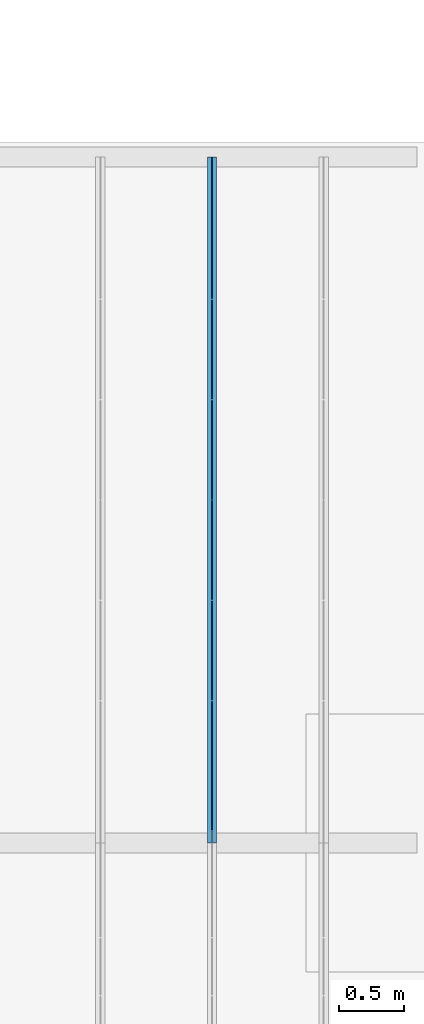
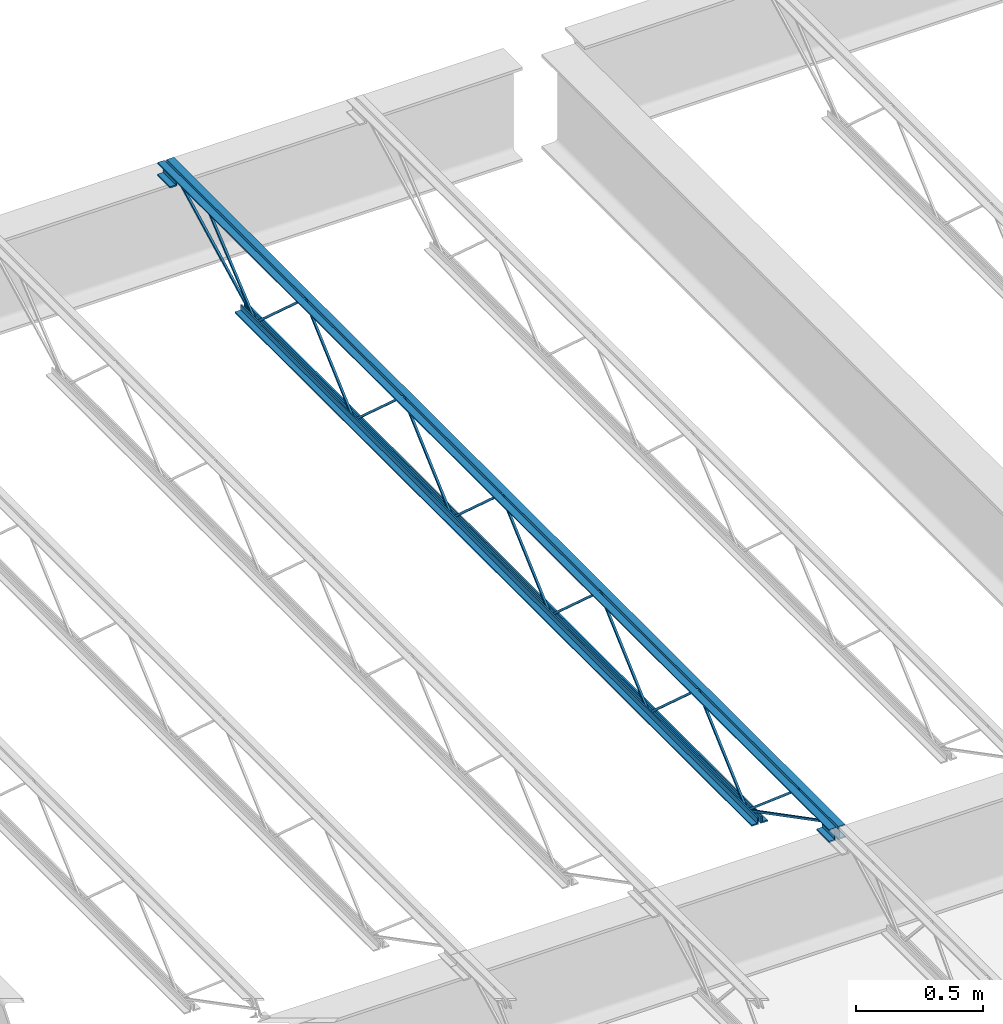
# One storey, part 63 of 75: 1 beam.
"""IFC2X3 building model written with IfcOpenShell, lengths in metres."""

from ifc_helpers import new_model, entity, si_unit, converted_unit, frame, origin, place, context, project, spatial, face_set, surface_model, element, save


model = new_model("IFC2X3")

# Units and contexts
model_context = context("Model", 3, precision=1e-09, world=origin())
plan_context = context("Plan", 3, precision=1e-09, world=origin())
ifc_project = project(units=[si_unit("LENGTHUNIT", "METRE"), si_unit("AREAUNIT", "SQUARE_METRE"), si_unit("VOLUMEUNIT", "CUBIC_METRE"), converted_unit("PLANEANGLEUNIT", "DEGREE", entity("IfcRatioMeasure", 0.01745329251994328), si_unit("PLANEANGLEUNIT", "RADIAN"), dimensions=[0, 0, 0, 0, 0, 0, 0]), si_unit("TIMEUNIT", "SECOND")], contexts=[model_context, plan_context])

# Site, building, storey
site_placement = place(None, origin())
site = spatial("IfcSite", under=ifc_project, at=site_placement, Name="Default", CompositionType="ELEMENT")
building_placement = place(site_placement, origin())
building = spatial("IfcBuilding", under=site, at=building_placement, CompositionType="ELEMENT")
storey_placement = place(building_placement, origin())
storey = spatial("IfcBuildingStorey", under=building, at=storey_placement, Name="First Floor", CompositionType="ELEMENT", Elevation=-3.531500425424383e-13)

# Beam
beam_placement = place(storey_placement, frame((-16.64339999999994, 44.78049999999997, 4.112000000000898), z_axis=(0.0, 0.0, 1.0), x_axis=(-1.0, 0.0, 0.0)))
element("IfcBeam", 1, at=beam_placement, inside=storey, Name="M_K-Series Bar Joist-Rod Web:14K1:14K1", ObjectType="M_K-Series Bar Joist-Rod Web:14K1", context=model_context, shape_type="SurfaceModel", body=[
    surface_model("IfcFaceBasedSurfaceModel", [(-0.0320000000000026, -2.266000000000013, 0.01110000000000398), (-0.04150000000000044, -2.266000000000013, 0.01110000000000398), (-0.04150000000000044, -2.266000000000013, 0.001600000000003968), (-0.0320000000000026, -2.266000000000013, 0.001600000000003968), (-0.04150000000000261, -2.264645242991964, 0.01110000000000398), (-0.0320000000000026, -2.264645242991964, 0.01110000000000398), (-0.04150000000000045, -2.26100475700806, 0.001600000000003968), (-0.04149999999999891, -1.878854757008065, 0.3449000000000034), (-0.04149999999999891, -1.876145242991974, 0.3449000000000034), (-0.04149999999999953, -1.493995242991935, 0.001600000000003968), (-0.04149999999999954, -1.489000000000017, 0.001600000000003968), (-0.04149999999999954, -1.489000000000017, 0.01110000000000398), (-0.04149999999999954, -1.490354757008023, 0.01110000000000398), (-0.04150000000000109, -1.872504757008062, 0.3544000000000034), (-0.04150000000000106, -1.882495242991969, 0.3544000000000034), (-0.03200000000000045, -2.26100475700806, 0.001600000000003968), (-0.03200000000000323, -1.878854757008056, 0.3449000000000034), (-0.03200000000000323, -1.876145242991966, 0.3449000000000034), (-0.0320000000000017, -1.493995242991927, 0.001600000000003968), (-0.03200000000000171, -1.489000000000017, 0.001600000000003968), (-0.03200000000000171, -1.489000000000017, 0.01110000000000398), (-0.0320000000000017, -1.490354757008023, 0.01110000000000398), (-0.03200000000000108, -1.872504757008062, 0.3544000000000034), (-0.03200000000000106, -1.882495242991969, 0.3544000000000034), (-0.03200000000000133, -3.04300000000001, 0.01110000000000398), (-0.04149999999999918, -3.04300000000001, 0.01110000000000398), (-0.04149999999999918, -3.04300000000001, 0.001600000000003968), (-0.03200000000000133, -3.04300000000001, 0.001600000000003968), (-0.04150000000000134, -3.041645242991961, 0.01110000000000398), (-0.03200000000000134, -3.041645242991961, 0.01110000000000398), (-0.04149999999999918, -3.038004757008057, 0.001600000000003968), (-0.0414999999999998, -2.655854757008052, 0.3449000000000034), (-0.04149999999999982, -2.653145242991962, 0.3449000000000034), (-0.04150000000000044, -2.270995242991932, 0.001600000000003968), (-0.04149999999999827, -2.266000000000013, 0.01110000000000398), (-0.04149999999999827, -2.26735475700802, 0.01110000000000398), (-0.04149999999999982, -2.649504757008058, 0.3544000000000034), (-0.0414999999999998, -2.659495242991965, 0.3544000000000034), (-0.03199999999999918, -3.038004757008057, 0.001600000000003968), (-0.03200000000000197, -2.655854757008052, 0.3449000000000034), (-0.03200000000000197, -2.653145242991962, 0.3449000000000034), (-0.03200000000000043, -2.270995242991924, 0.001600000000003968), (-0.03200000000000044, -2.266000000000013, 0.001600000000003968), (-0.0320000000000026, -2.26735475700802, 0.01110000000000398), (-0.03200000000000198, -2.649504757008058, 0.3544000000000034), (-0.03200000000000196, -2.659495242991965, 0.3544000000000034), (-0.03200000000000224, -3.820000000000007, 0.01110000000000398), (-0.04150000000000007, -3.820000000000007, 0.01110000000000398), (-0.04150000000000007, -3.820000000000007, 0.001600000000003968), (-0.03200000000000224, -3.820000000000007, 0.001600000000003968), (-0.04150000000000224, -3.818645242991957, 0.01110000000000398), (-0.03200000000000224, -3.818645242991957, 0.01110000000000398), (-0.04150000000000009, -3.815004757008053, 0.001600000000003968), (-0.0415000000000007, -3.432854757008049, 0.3449000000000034), (-0.04150000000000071, -3.430145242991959, 0.3449000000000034), (-0.04149999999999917, -3.04799524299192, 0.001600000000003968), (-0.04149999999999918, -3.043000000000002, 0.001600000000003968), (-0.04149999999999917, -3.044354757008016, 0.01110000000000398), (-0.04150000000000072, -3.426504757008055, 0.3544000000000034), (-0.0415000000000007, -3.436495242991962, 0.3544000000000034), (-0.03200000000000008, -3.815004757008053, 0.001600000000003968), (-0.03200000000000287, -3.432854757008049, 0.3449000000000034), (-0.03200000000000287, -3.430145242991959, 0.3449000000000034), (-0.03200000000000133, -3.04799524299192, 0.001600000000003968), (-0.03200000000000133, -3.043000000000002, 0.01110000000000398), (-0.03200000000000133, -3.044354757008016, 0.01110000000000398), (-0.03200000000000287, -3.426504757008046, 0.3544000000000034), (-0.03200000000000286, -3.436495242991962, 0.3544000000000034), (-0.03200000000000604, -1.489000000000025, 0.01109999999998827), (-0.04150000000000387, -1.489000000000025, 0.01109999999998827), (-0.04150000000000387, -1.489000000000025, 0.001599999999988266), (-0.03200000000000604, -1.489000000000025, 0.001599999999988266), (-0.04150000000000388, -1.487645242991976, 0.01109999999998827), (-0.03200000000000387, -1.487645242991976, 0.01109999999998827), (-0.04150000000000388, -1.484004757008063, 0.001599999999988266), (-0.04150000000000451, -1.101854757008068, 0.3448999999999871), (-0.04150000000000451, -1.099145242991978, 0.3448999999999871), (-0.04150000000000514, -0.7169952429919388, 0.001599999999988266), (-0.04150000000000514, -0.7120000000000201, 0.001599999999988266), (-0.04150000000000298, -0.7120000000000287, 0.01109999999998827), (-0.04150000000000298, -0.7133547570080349, 0.01109999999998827), (-0.04150000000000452, -1.095504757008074, 0.3543999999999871), (-0.0415000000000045, -1.10549524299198, 0.3543999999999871), (-0.03200000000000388, -1.484004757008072, 0.001599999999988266), (-0.0320000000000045, -1.101854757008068, 0.3448999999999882), (-0.0320000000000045, -1.099145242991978, 0.3448999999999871), (-0.03200000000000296, -0.7169952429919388, 0.001599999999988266), (-0.03200000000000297, -0.7120000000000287, 0.001599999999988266), (-0.0320000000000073, -0.7120000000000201, 0.01109999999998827), (-0.03200000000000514, -0.7133547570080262, 0.01109999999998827), (-0.03200000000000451, -1.095504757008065, 0.3543999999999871), (-0.0320000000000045, -1.105495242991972, 0.3543999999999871), (-0.03200000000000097, -4.597000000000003, 0.01110000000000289), (-0.04149999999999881, -4.597000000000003, 0.01110000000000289), (-0.04149999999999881, -4.597000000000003, 0.001600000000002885), (-0.03200000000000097, -4.597000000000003, 0.001600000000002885), (-0.04150000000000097, -4.595645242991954, 0.01110000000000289), (-0.03200000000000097, -4.595645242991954, 0.01110000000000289), (-0.04149999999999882, -4.592004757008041, 0.001600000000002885), (-0.04149999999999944, -4.209854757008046, 0.3449000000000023), (-0.04149999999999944, -4.207145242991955, 0.3449000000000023), (-0.04150000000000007, -3.824995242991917, 0.001600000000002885), (-0.04150000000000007, -3.819999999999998, 0.001600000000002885), (-0.04149999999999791, -3.820000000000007, 0.01110000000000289), (-0.04149999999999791, -3.821354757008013, 0.01110000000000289), (-0.04149999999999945, -4.203504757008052, 0.3544000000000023), (-0.04149999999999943, -4.213495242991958, 0.3544000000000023), (-0.03199999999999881, -4.592004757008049, 0.001600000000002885), (-0.0320000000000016, -4.209854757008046, 0.3449000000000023), (-0.0320000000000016, -4.207145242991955, 0.3449000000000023), (-0.03200000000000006, -3.824995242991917, 0.001600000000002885), (-0.03200000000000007, -3.820000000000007, 0.001600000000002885), (-0.03200000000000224, -3.819999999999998, 0.01110000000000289), (-0.03200000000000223, -3.821354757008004, 0.01110000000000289), (-0.03200000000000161, -4.203504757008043, 0.3544000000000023), (-0.03200000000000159, -4.213495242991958, 0.3544000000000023), (-0.04150000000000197, 0.0, 0.3559999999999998), (-0.07350000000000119, 0.0, 0.3559999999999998), (-0.07350000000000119, 0.0, 0.349499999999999), (-0.04800000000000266, 0.0, 0.349499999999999), (-0.04800000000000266, 0.0, 0.3239999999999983), (-0.04150000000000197, 0.0, 0.3239999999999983), (-0.03200000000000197, 0.0, 0.3559999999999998), (-0.03200000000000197, 0.0, 0.3239999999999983), (-0.02550000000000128, 0.0, 0.3239999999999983), (-0.02550000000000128, 0.0, 0.349499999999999), (0.0, 0.0, 0.349499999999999), (0.0, 0.0, 0.3559999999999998), (-0.04150000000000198, -5.309000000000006, 0.3559999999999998), (-0.0735000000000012, -5.309000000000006, 0.3559999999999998), (-0.0735000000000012, -5.309000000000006, 0.349499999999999), (-0.04800000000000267, -5.309000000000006, 0.349499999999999), (-0.04800000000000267, -5.309000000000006, 0.3239999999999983), (-0.04150000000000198, -5.309000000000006, 0.3239999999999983), (-0.03200000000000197, -5.309000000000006, 0.3559999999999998), (-0.03200000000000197, -5.309000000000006, 0.3239999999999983), (-0.02550000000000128, -5.309000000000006, 0.3239999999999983), (-0.02550000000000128, -5.309000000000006, 0.349499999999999), (0.0, -5.309000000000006, 0.349499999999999), (0.0, -5.309000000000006, 0.3559999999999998), (-0.03200000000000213, -5.20900000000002, 0.2924999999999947), (0.0, -5.20900000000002, 0.2924999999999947), (0.0, -5.20900000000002, 0.2989999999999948), (-0.02550000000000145, -5.20900000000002, 0.2989999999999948), (-0.02550000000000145, -5.20900000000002, 0.3239999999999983), (-0.03200000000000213, -5.20900000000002, 0.3239999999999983), (-0.07350000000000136, -5.20900000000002, 0.2924999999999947), (-0.04150000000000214, -5.20900000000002, 0.2924999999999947), (-0.04150000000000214, -5.20900000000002, 0.3239999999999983), (-0.04800000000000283, -5.20900000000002, 0.3239999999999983), (-0.04800000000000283, -5.20900000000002, 0.2989999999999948), (-0.07350000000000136, -5.20900000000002, 0.2989999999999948), (-0.03200000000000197, -5.309000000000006, 0.2924999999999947), (0.0, -5.309000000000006, 0.2924999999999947), (0.0, -5.309000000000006, 0.2989999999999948), (-0.02550000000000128, -5.309000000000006, 0.2989999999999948), (-0.0735000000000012, -5.309000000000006, 0.2924999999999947), (-0.04150000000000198, -5.309000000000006, 0.2924999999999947), (-0.04800000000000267, -5.309000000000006, 0.2989999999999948), (-0.0735000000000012, -5.309000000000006, 0.2989999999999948), (-0.04150000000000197, 0.0, 0.2924999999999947), (-0.04800000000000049, 0.0, 0.3239999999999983), (-0.04800000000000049, 0.0, 0.2989999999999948), (-0.07350000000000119, 0.0, 0.2989999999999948), (-0.07350000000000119, 0.0, 0.2924999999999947), (-0.03200000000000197, 0.0, 0.2924999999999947), (0.0, 0.0, 0.2924999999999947), (0.0, 0.0, 0.2989999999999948), (-0.02550000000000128, 0.0, 0.2989999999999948), (-0.04150000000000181, -0.1000000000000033, 0.2924999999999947), (-0.04150000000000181, -0.1000000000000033, 0.3239999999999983), (-0.04800000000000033, -0.1000000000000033, 0.3239999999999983), (-0.04800000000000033, -0.1000000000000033, 0.2989999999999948), (-0.07350000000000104, -0.1000000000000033, 0.2989999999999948), (-0.07350000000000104, -0.1000000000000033, 0.2924999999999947), (-0.03200000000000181, -0.1000000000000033, 0.2924999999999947), (0.0, -0.1000000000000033, 0.2924999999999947), (0.0, -0.1000000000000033, 0.2989999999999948), (-0.02550000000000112, -0.1000000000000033, 0.2989999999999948), (-0.02550000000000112, -0.1000000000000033, 0.3239999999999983), (-0.03200000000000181, -0.1000000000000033, 0.3239999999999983), (-0.04150000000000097, -0.6119999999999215, 0.0), (-0.04150000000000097, -0.6119999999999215, 0.03199999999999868), (-0.04800000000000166, -0.6119999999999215, 0.03199999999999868), (-0.04800000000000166, -0.6119999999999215, 0.006499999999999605), (-0.07350000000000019, -0.6119999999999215, 0.006499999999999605), (-0.07350000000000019, -0.6119999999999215, 0.0), (-0.03200000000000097, -0.6119999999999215, 0.0), (0.0, -0.6119999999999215, 0.0), (0.0, -0.6119999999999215, 0.006499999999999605), (-0.02550000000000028, -0.6119999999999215, 0.006499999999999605), (-0.02550000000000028, -0.6119999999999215, 0.03199999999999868), (-0.03200000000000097, -0.6119999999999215, 0.03199999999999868), (-0.04150000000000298, -4.696999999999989, 0.0), (-0.04150000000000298, -4.696999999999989, 0.03199999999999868), (-0.04800000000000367, -4.696999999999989, 0.03199999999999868), (-0.04800000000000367, -4.696999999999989, 0.006499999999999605), (-0.0735000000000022, -4.696999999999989, 0.006499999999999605), (-0.0735000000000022, -4.696999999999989, 0.0), (-0.03200000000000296, -4.696999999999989, 0.0), (0.0, -4.696999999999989, 0.0), (0.0, -4.696999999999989, 0.006499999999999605), (-0.02550000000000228, -4.696999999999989, 0.006499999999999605), (-0.02550000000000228, -4.696999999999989, 0.03199999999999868), (-0.03200000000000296, -4.696999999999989, 0.03199999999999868), (-0.03199999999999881, -4.594811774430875, 0.01056594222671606), (-0.04149999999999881, -4.594811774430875, 0.01056594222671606), (-0.04149999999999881, -4.599188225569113, 0.002134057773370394), (-0.03200000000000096, -4.599188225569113, 0.002134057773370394), (-0.0319999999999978, -5.207840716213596, 0.3287499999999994), (-0.0319999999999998, -5.308999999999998, 0.3287499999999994), (-0.03200000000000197, -5.308999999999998, 0.3192499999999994), (-0.03200000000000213, -5.210159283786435, 0.3192499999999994), (-0.04149999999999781, -5.210159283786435, 0.3192499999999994), (-0.04149999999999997, -5.207840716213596, 0.3287499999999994), (-0.04149999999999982, -5.308999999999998, 0.3287499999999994), (-0.04149999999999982, -5.309000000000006, 0.3192499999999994), (-0.03200000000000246, -5.005457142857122, 0.341700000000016), (-0.0415000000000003, -5.005457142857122, 0.341700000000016), (-0.0415000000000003, -5.005457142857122, 0.332200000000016), (-0.03200000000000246, -5.005457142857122, 0.332200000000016), (-0.04150000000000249, -4.991034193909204, 0.341700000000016), (-0.03200000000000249, -4.991034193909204, 0.341700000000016), (-0.04150000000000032, -4.994480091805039, 0.332200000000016), (-0.0414999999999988, -4.600045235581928, 0.002704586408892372), (-0.04150000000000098, -4.593954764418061, 0.009995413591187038), (-0.03200000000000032, -4.994480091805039, 0.332200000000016), (-0.03200000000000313, -4.600045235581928, 0.002704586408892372), (-0.03199999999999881, -4.593954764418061, 0.009995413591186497), (-0.03199999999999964, -0.09781177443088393, 0.3197840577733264), (-0.03200000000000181, -0.1021882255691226, 0.3282159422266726), (-0.04150000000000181, -0.1021882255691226, 0.3282159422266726), (-0.04149999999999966, -0.09781177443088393, 0.3197840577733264), (-0.03200000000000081, -0.7098117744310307, 0.002134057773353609), (-0.03200000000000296, -0.7141882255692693, 0.01056594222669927), (-0.04150000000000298, -0.7141882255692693, 0.01056594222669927), (-0.04150000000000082, -0.7098117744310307, 0.002134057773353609), (-0.0319999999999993, -0.3059055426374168, 0.3460340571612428), (-0.03200000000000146, -0.3120658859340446, 0.3532659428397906), (-0.04150000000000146, -0.3120658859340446, 0.3532659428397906), (-0.04149999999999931, -0.3059055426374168, 0.3460340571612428), (-0.03200000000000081, -0.7089198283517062, 0.002734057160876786), (-0.03200000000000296, -0.7150801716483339, 0.009965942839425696), (-0.04150000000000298, -0.7150801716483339, 0.009965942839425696), (-0.04150000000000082, -0.7089198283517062, 0.002734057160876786)], [face_set([[[0, 1, 2, 3]], [[1, 4, 5, 0]], [[2, 6, 7, 8, 9, 10, 11, 12, 13, 14, 4, 1]], [[3, 2, 6, 15]], [[0, 3, 15, 16, 17, 18, 19, 20, 21, 22, 23, 5]], [[4, 5, 23, 14]], [[15, 16, 7, 6]], [[14, 13, 22, 23]], [[16, 7, 8, 17]], [[13, 12, 21, 22]], [[17, 8, 9, 18]], [[20, 11, 10, 19]], [[12, 11, 20, 21]], [[18, 9, 10, 19]]]), face_set([[[24, 25, 26, 27]], [[25, 28, 29, 24]], [[26, 30, 31, 32, 33, 2, 34, 35, 36, 37, 28, 25]], [[27, 26, 30, 38]], [[24, 27, 38, 39, 40, 41, 42, 0, 43, 44, 45, 29]], [[28, 29, 45, 37]], [[38, 39, 31, 30]], [[37, 36, 44, 45]], [[39, 31, 32, 40]], [[36, 35, 43, 44]], [[40, 32, 33, 41]], [[0, 34, 2, 42]], [[35, 34, 0, 43]], [[41, 33, 2, 42]]]), face_set([[[46, 47, 48, 49]], [[47, 50, 51, 46]], [[48, 52, 53, 54, 55, 56, 25, 57, 58, 59, 50, 47]], [[49, 48, 52, 60]], [[46, 49, 60, 61, 62, 63, 27, 64, 65, 66, 67, 51]], [[50, 51, 67, 59]], [[60, 61, 53, 52]], [[59, 58, 66, 67]], [[61, 53, 54, 62]], [[58, 57, 65, 66]], [[62, 54, 55, 63]], [[64, 25, 56, 27]], [[57, 25, 64, 65]], [[63, 55, 56, 27]]]), face_set([[[68, 69, 70, 71]], [[69, 72, 73, 68]], [[70, 74, 75, 76, 77, 78, 79, 80, 81, 82, 72, 69]], [[71, 70, 74, 83]], [[68, 71, 83, 84, 85, 86, 87, 88, 89, 90, 91, 73]], [[72, 73, 91, 82]], [[83, 84, 75, 74]], [[82, 81, 90, 91]], [[84, 75, 76, 85]], [[81, 80, 89, 90]], [[85, 76, 77, 86]], [[88, 79, 78, 87]], [[80, 79, 88, 89]], [[86, 77, 78, 87]]]), face_set([[[92, 93, 94, 95]], [[93, 96, 97, 92]], [[94, 98, 99, 100, 101, 102, 103, 104, 105, 106, 96, 93]], [[95, 94, 98, 107]], [[92, 95, 107, 108, 109, 110, 111, 112, 113, 114, 115, 97]], [[96, 97, 115, 106]], [[107, 108, 99, 98]], [[106, 105, 114, 115]], [[108, 99, 100, 109]], [[105, 104, 113, 114]], [[109, 100, 101, 110]], [[112, 103, 102, 111]], [[104, 103, 112, 113]], [[110, 101, 102, 111]]]), face_set([[[116, 117, 118, 119, 120, 121]], [[122, 123, 124, 125, 126, 127]], [[128, 129, 130, 131, 132, 133]], [[134, 135, 136, 137, 138, 139]], [[121, 116, 128, 133]], [[120, 121, 133, 132]], [[119, 131, 132, 120]], [[118, 119, 131, 130]], [[117, 129, 130, 118]], [[116, 128, 129, 117]], [[127, 139, 134, 122]], [[126, 127, 139, 138]], [[125, 126, 138, 137]], [[124, 125, 137, 136]], [[123, 124, 136, 135]], [[122, 134, 135, 123]]]), face_set([[[140, 141, 142, 143, 144, 145]], [[146, 147, 148, 149, 150, 151]], [[152, 153, 154, 155, 136, 135]], [[156, 157, 133, 132, 158, 159]], [[145, 135, 152, 140]], [[144, 136, 135, 145]], [[143, 144, 136, 155]], [[142, 154, 155, 143]], [[141, 142, 154, 153]], [[140, 141, 153, 152]], [[151, 159, 156, 146]], [[150, 158, 159, 151]], [[149, 132, 158, 150]], [[148, 133, 132, 149]], [[147, 148, 133, 157]], [[146, 147, 157, 156]]]), face_set([[[160, 121, 161, 162, 163, 164]], [[165, 166, 167, 168, 124, 123]], [[169, 170, 171, 172, 173, 174]], [[175, 176, 177, 178, 179, 180]], [[164, 160, 169, 174]], [[163, 173, 174, 164]], [[162, 172, 173, 163]], [[161, 171, 172, 162]], [[121, 170, 171, 161]], [[160, 121, 170, 169]], [[123, 180, 175, 165]], [[124, 179, 180, 123]], [[168, 124, 179, 178]], [[167, 177, 178, 168]], [[166, 167, 177, 176]], [[165, 166, 176, 175]]]), face_set([[[181, 182, 183, 184, 185, 186]], [[187, 188, 189, 190, 191, 192]], [[193, 194, 195, 196, 197, 198]], [[199, 200, 201, 202, 203, 204]], [[186, 181, 193, 198]], [[185, 197, 198, 186]], [[184, 196, 197, 185]], [[183, 195, 196, 184]], [[182, 194, 195, 183]], [[181, 182, 194, 193]], [[192, 204, 199, 187]], [[191, 203, 204, 192]], [[190, 191, 203, 202]], [[189, 201, 202, 190]], [[188, 189, 201, 200]], [[187, 188, 200, 199]]]), face_set([[[205, 206, 207, 208]], [[208, 205, 209, 210, 211, 212]], [[207, 208, 212, 213]], [[206, 214, 215, 216, 213, 207]], [[205, 209, 214, 206]], [[210, 215, 216, 211]], [[213, 212, 211, 216]], [[209, 210, 215, 214]]]), face_set([[[217, 218, 219, 220]], [[218, 221, 222, 217]], [[219, 223, 224, 225, 221, 218]], [[220, 219, 223, 226]], [[217, 220, 226, 227, 228, 222]], [[228, 225, 224, 227]], [[221, 225, 228, 222]], [[226, 223, 224, 227]]]), face_set([[[229, 230, 231, 232]], [[233, 234, 235, 236]], [[232, 236, 233, 229]], [[231, 235, 236, 232]], [[230, 231, 235, 234]], [[229, 230, 234, 233]]]), face_set([[[237, 238, 239, 240]], [[241, 242, 243, 244]], [[240, 244, 241, 237]], [[239, 243, 244, 240]], [[238, 239, 243, 242]], [[237, 238, 242, 241]]])]),
])

save(model, "model.ifc")
